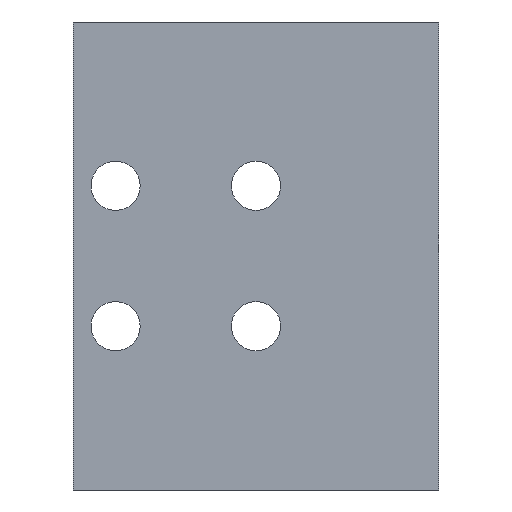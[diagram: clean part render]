
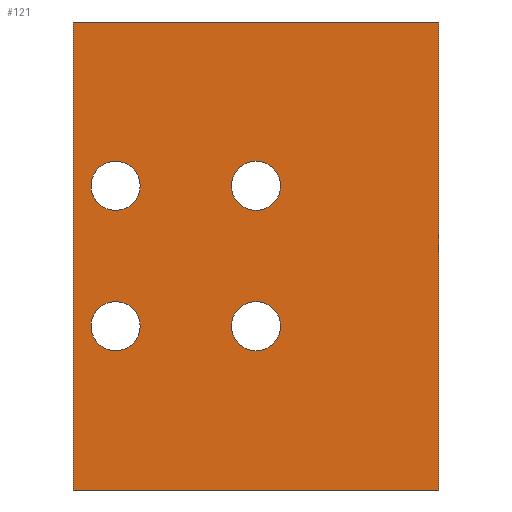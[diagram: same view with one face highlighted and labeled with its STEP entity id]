
A CAD part, front view. The second image highlights one B-rep face of the part: STEP entity #121.
In plain terms, the highlighted planar face has unit normal (0, -1, 0).
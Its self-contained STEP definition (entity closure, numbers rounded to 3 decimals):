
#107 = EDGE_CURVE( '', #201, #237, #274, .T. );
#121 = ADVANCED_FACE( '', ( #290, #291, #292, #293, #294 ), #295, .T. );
#125 = EDGE_CURVE( '', #177, #199, #299, .T. );
#139 = EDGE_CURVE( '', #237, #201, #314, .T. );
#141 = EDGE_CURVE( '', #145, #225, #316, .T. );
#145 = VERTEX_POINT( '', #321 );
#159 = EDGE_CURVE( '', #177, #145, #337, .T. );
#161 = VERTEX_POINT( '', #339 );
#173 = VERTEX_POINT( '', #351 );
#177 = VERTEX_POINT( '', #356 );
#181 = VERTEX_POINT( '', #365 );
#193 = EDGE_CURVE( '', #161, #181, #378, .T. );
#195 = EDGE_CURVE( '', #221, #231, #380, .T. );
#199 = VERTEX_POINT( '', #384 );
#201 = VERTEX_POINT( '', #386 );
#209 = EDGE_CURVE( '', #235, #173, #394, .T. );
#217 = EDGE_CURVE( '', #231, #221, #402, .T. );
#221 = VERTEX_POINT( '', #406 );
#223 = EDGE_CURVE( '', #199, #225, #408, .T. );
#225 = VERTEX_POINT( '', #410 );
#231 = VERTEX_POINT( '', #417 );
#235 = VERTEX_POINT( '', #422 );
#237 = VERTEX_POINT( '', #424 );
#245 = EDGE_CURVE( '', #173, #235, #433, .T. );
#247 = EDGE_CURVE( '', #181, #161, #435, .T. );
#274 = CIRCLE( '', #457, 5.25 );
#290 = FACE_BOUND( '', #476, .T. );
#291 = FACE_BOUND( '', #477, .T. );
#292 = FACE_BOUND( '', #478, .T. );
#293 = FACE_BOUND( '', #479, .T. );
#294 = FACE_OUTER_BOUND( '', #480, .T. );
#295 = PLANE( '', #481 );
#299 = LINE( '', #486, #487 );
#314 = CIRCLE( '', #507, 5.25 );
#316 = LINE( '', #510, #511 );
#321 = CARTESIAN_POINT( '', ( -39., 0., 50. ) );
#337 = LINE( '', #537, #538 );
#339 = CARTESIAN_POINT( '', ( 5.25, 0., -15. ) );
#351 = CARTESIAN_POINT( '', ( -24.75, 0., -15. ) );
#356 = CARTESIAN_POINT( '', ( 39., 0., 50. ) );
#365 = CARTESIAN_POINT( '', ( -5.25, 0., -15. ) );
#378 = CIRCLE( '', #592, 5.25 );
#380 = CIRCLE( '', #595, 5.25 );
#384 = CARTESIAN_POINT( '', ( 39., 0., -50. ) );
#386 = CARTESIAN_POINT( '', ( -35.25, 0., 15. ) );
#394 = CIRCLE( '', #615, 5.25 );
#402 = CIRCLE( '', #626, 5.25 );
#406 = CARTESIAN_POINT( '', ( 5.25, 0., 15. ) );
#408 = LINE( '', #633, #634 );
#410 = CARTESIAN_POINT( '', ( -39., 0., -50. ) );
#417 = CARTESIAN_POINT( '', ( -5.25, 0., 15. ) );
#422 = CARTESIAN_POINT( '', ( -35.25, 0., -15. ) );
#424 = CARTESIAN_POINT( '', ( -24.75, 0., 15. ) );
#433 = CIRCLE( '', #665, 5.25 );
#435 = CIRCLE( '', #668, 5.25 );
#457 = AXIS2_PLACEMENT_3D( '', #680, #681, #682 );
#476 = EDGE_LOOP( '', ( #704, #705 ) );
#477 = EDGE_LOOP( '', ( #706, #707 ) );
#478 = EDGE_LOOP( '', ( #708, #709 ) );
#479 = EDGE_LOOP( '', ( #710, #711 ) );
#480 = EDGE_LOOP( '', ( #712, #713, #714, #715 ) );
#481 = AXIS2_PLACEMENT_3D( '', #716, #717, #718 );
#486 = CARTESIAN_POINT( '', ( 39., 0., 50. ) );
#487 = VECTOR( '', #719, 1. );
#507 = AXIS2_PLACEMENT_3D( '', #735, #736, #737 );
#510 = CARTESIAN_POINT( '', ( -39., 0., 50. ) );
#511 = VECTOR( '', #738, 1. );
#537 = CARTESIAN_POINT( '', ( 39., 0., 50. ) );
#538 = VECTOR( '', #770, 1. );
#592 = AXIS2_PLACEMENT_3D( '', #813, #814, #815 );
#595 = AXIS2_PLACEMENT_3D( '', #816, #817, #818 );
#615 = AXIS2_PLACEMENT_3D( '', #824, #825, #826 );
#626 = AXIS2_PLACEMENT_3D( '', #828, #829, #830 );
#633 = CARTESIAN_POINT( '', ( 39., 0., -50. ) );
#634 = VECTOR( '', #831, 1. );
#665 = AXIS2_PLACEMENT_3D( '', #861, #862, #863 );
#668 = AXIS2_PLACEMENT_3D( '', #864, #865, #866 );
#680 = CARTESIAN_POINT( '', ( -30., 0., 15. ) );
#681 = DIRECTION( '', ( 0., 1., 0. ) );
#682 = DIRECTION( '', ( -1., 0., 0. ) );
#704 = ORIENTED_EDGE( '', *, *, #195, .T. );
#705 = ORIENTED_EDGE( '', *, *, #217, .T. );
#706 = ORIENTED_EDGE( '', *, *, #139, .T. );
#707 = ORIENTED_EDGE( '', *, *, #107, .T. );
#708 = ORIENTED_EDGE( '', *, *, #193, .T. );
#709 = ORIENTED_EDGE( '', *, *, #247, .T. );
#710 = ORIENTED_EDGE( '', *, *, #245, .T. );
#711 = ORIENTED_EDGE( '', *, *, #209, .T. );
#712 = ORIENTED_EDGE( '', *, *, #141, .T. );
#713 = ORIENTED_EDGE( '', *, *, #223, .F. );
#714 = ORIENTED_EDGE( '', *, *, #125, .F. );
#715 = ORIENTED_EDGE( '', *, *, #159, .T. );
#716 = CARTESIAN_POINT( '', ( 39., 0., 50. ) );
#717 = DIRECTION( '', ( 0., -1., 0. ) );
#718 = DIRECTION( '', ( 0., 0., 1. ) );
#719 = DIRECTION( '', ( 0., 0., -1. ) );
#735 = CARTESIAN_POINT( '', ( -30., 0., 15. ) );
#736 = DIRECTION( '', ( 0., 1., 0. ) );
#737 = DIRECTION( '', ( -1., 0., 0. ) );
#738 = DIRECTION( '', ( 0., 0., -1. ) );
#770 = DIRECTION( '', ( -1., 0., 0. ) );
#813 = CARTESIAN_POINT( '', ( 0., 0., -15. ) );
#814 = DIRECTION( '', ( 0., 1., 0. ) );
#815 = DIRECTION( '', ( -1., 0., 0. ) );
#816 = CARTESIAN_POINT( '', ( 0., 0., 15. ) );
#817 = DIRECTION( '', ( 0., 1., 0. ) );
#818 = DIRECTION( '', ( -1., 0., 0. ) );
#824 = CARTESIAN_POINT( '', ( -30., 0., -15. ) );
#825 = DIRECTION( '', ( 0., 1., 0. ) );
#826 = DIRECTION( '', ( -1., 0., 0. ) );
#828 = CARTESIAN_POINT( '', ( 0., 0., 15. ) );
#829 = DIRECTION( '', ( 0., 1., 0. ) );
#830 = DIRECTION( '', ( -1., 0., 0. ) );
#831 = DIRECTION( '', ( -1., 0., 0. ) );
#861 = CARTESIAN_POINT( '', ( -30., 0., -15. ) );
#862 = DIRECTION( '', ( 0., 1., 0. ) );
#863 = DIRECTION( '', ( -1., 0., 0. ) );
#864 = CARTESIAN_POINT( '', ( 0., 0., -15. ) );
#865 = DIRECTION( '', ( 0., 1., 0. ) );
#866 = DIRECTION( '', ( -1., 0., 0. ) );
